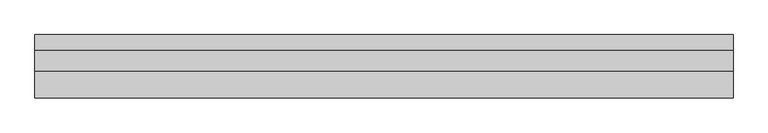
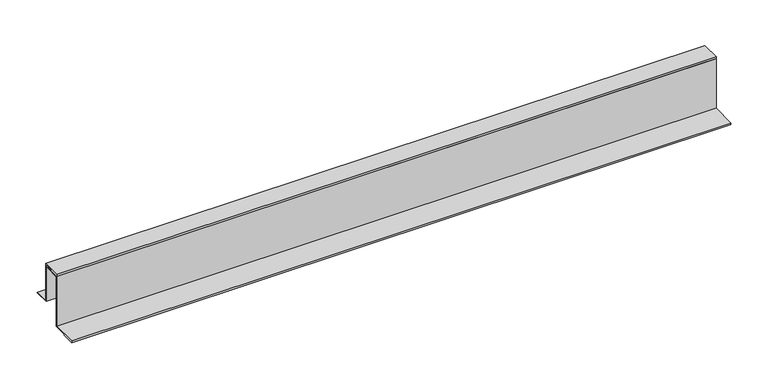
"""IFC4 building model written with IfcOpenShell, lengths in millimetres: proxy geometry, АК7_1 бок Обрамление оконного_дверного проема : АК7_1 бок Обрамление оконного_дверного проема."""

from ifc_helpers import new_model, si_unit, frame, origin, place, context, project, spatial, polyline, outline, extrude, source, transform, mapped, element, save


def generic_models_40eecb82(model_context):
    return source(origin(), model_context, "Body", "SweptSolid", [
        extrude(outline(polyline([(-12.5, 25.0), (-12.5, -35.9999552), (10.5, -35.9999552), (10.5, -36.9999552), (-13.5, -36.9999552), (-13.5, 24.0), (-41.5, 24.0), (-41.5, 23.0), (-27.5, 23.0), (-27.5, 22.0), (-42.5, 22.0), (-42.5, 25.0), (-12.5, 25.0)])), frame((0.0, 0.0, 0.0), z_axis=(1.0, 0.0, 0.0), x_axis=(0.0, 1.0, 0.0)), (0.0, 0.0, 1.0), 1025.0045775),
        extrude(outline(polyline([(-42.5, -60.0), (-42.5, 22.0), (-17.5, 22.0), (-17.5, 21.0), (-41.5, 21.0), (-41.5, -61.0), (-81.5, -61.0), (-81.5, -62.0), (-62.5, -62.0), (-62.5, -63.0), (-82.5, -63.0), (-82.5, -60.0), (-42.5, -60.0)])), frame((0.0, 0.0, 0.0), z_axis=(1.0, 0.0, 0.0), x_axis=(0.0, 1.0, 0.0)), (0.0, 0.0, 1.0), 1025.0045775),
    ])


if __name__ == "__main__":
    model = new_model("IFC4")
    model_context = context("Model", 3, world=origin())
    ifc_project = project(units=[si_unit("LENGTHUNIT", "METRE", prefix="MILLI")], contexts=[model_context])
    site = spatial("IfcSite", under=ifc_project)
    building = spatial("IfcBuilding", under=site)
    placement = place(None, origin())
    generic_models_shape = generic_models_40eecb82(model_context)
    element("IfcBuildingElementProxy", 1, Name="АК7_1 бок Обрамление оконного_дверного проема : АК7_1 бок Обрамление оконного_дверного проема", ObjectType="АК7_1 бок Обрамление оконного_дверного проема : АК7_1 бок Обрамление оконного_дверного проема", at=placement, inside=building, context=model_context, shape_type="MappedRepresentation", body=[
        mapped(generic_models_shape, transform((0.0, 0.0, 0.0), x_axis=(1.0, 0.0, 0.0), y_axis=(0.0, 1.0, 0.0), z_axis=(0.0, 0.0, 1.0))),
    ])
    save(model, "model.ifc")
